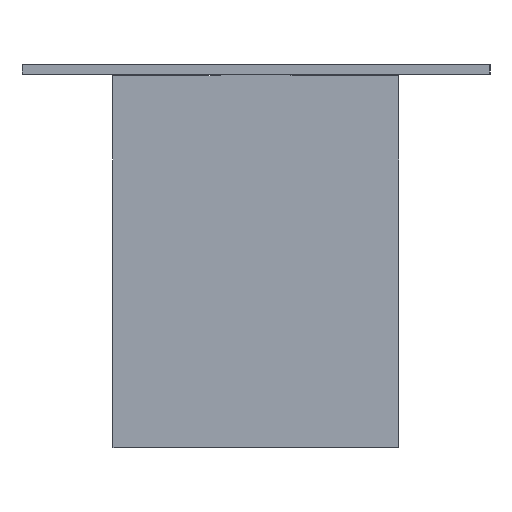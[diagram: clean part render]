
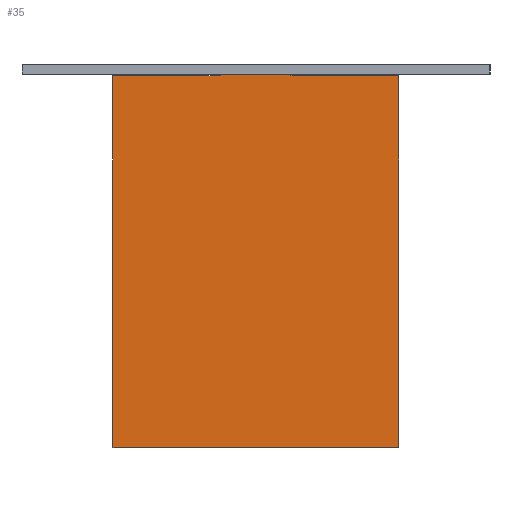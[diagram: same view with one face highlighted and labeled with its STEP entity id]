
A CAD part, left-side view. The second image highlights one B-rep face of the part: STEP entity #35.
In plain terms, the highlighted planar face has unit normal (-1, 0, 0).
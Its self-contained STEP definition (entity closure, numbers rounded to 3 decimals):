
#35=ADVANCED_FACE('',(#77),#619,.T.);
#77=FACE_OUTER_BOUND('',#119,.T.);
#119=EDGE_LOOP('',(#165,#166,#167,#168,#169,#170,#171));
#165=ORIENTED_EDGE('',*,*,#360,.F.);
#166=ORIENTED_EDGE('',*,*,#361,.F.);
#167=ORIENTED_EDGE('',*,*,#362,.F.);
#168=ORIENTED_EDGE('',*,*,#363,.F.);
#169=ORIENTED_EDGE('',*,*,#364,.F.);
#170=ORIENTED_EDGE('',*,*,#365,.F.);
#171=ORIENTED_EDGE('',*,*,#357,.F.);
#357=EDGE_CURVE('',#549,#556,#465,.T.);
#360=EDGE_CURVE('',#551,#549,#453,.T.);
#361=EDGE_CURVE('',#552,#551,#468,.T.);
#362=EDGE_CURVE('',#553,#552,#454,.T.);
#363=EDGE_CURVE('',#554,#553,#469,.T.);
#364=EDGE_CURVE('',#555,#554,#470,.T.);
#365=EDGE_CURVE('',#556,#555,#471,.T.);
#453=(
BOUNDED_CURVE()
B_SPLINE_CURVE(2,(#784,#785,#786),.UNSPECIFIED.,.F.,.F.)
B_SPLINE_CURVE_WITH_KNOTS((3,3),(2571.701,2607.964),
 .UNSPECIFIED.)
CURVE()
GEOMETRIC_REPRESENTATION_ITEM()
RATIONAL_B_SPLINE_CURVE((1.,0.748,1.))
REPRESENTATION_ITEM('')
);
#454=(
BOUNDED_CURVE()
B_SPLINE_CURVE(2,(#789,#790,#791,#792,#793),.UNSPECIFIED.,.F.,.F.)
B_SPLINE_CURVE_WITH_KNOTS((3,2,3),(2235.077,2435.077,2471.34),
 .UNSPECIFIED.)
CURVE()
GEOMETRIC_REPRESENTATION_ITEM()
RATIONAL_B_SPLINE_CURVE((1.,1.,1.,0.748,1.))
REPRESENTATION_ITEM('')
);
#465=B_SPLINE_CURVE_WITH_KNOTS('',1,(#778,#779),.UNSPECIFIED.,.F.,.F.,(2,
2),(55.077,255.077),.UNSPECIFIED.);
#468=B_SPLINE_CURVE_WITH_KNOTS('',1,(#787,#788),.UNSPECIFIED.,.F.,.F.,(2,
2),(2471.34,2571.701),.UNSPECIFIED.);
#469=B_SPLINE_CURVE_WITH_KNOTS('',1,(#794,#795),.UNSPECIFIED.,.F.,.F.,(2,
2),(1520.077,2235.077),.UNSPECIFIED.);
#470=B_SPLINE_CURVE_WITH_KNOTS('',1,(#796,#797),.UNSPECIFIED.,.F.,.F.,(2,
2),(970.077,1520.077),.UNSPECIFIED.);
#471=B_SPLINE_CURVE_WITH_KNOTS('',1,(#798,#799),.UNSPECIFIED.,.F.,.F.,(2,
2),(255.077,970.077),.UNSPECIFIED.);
#549=VERTEX_POINT('',#764);
#551=VERTEX_POINT('',#766);
#552=VERTEX_POINT('',#767);
#553=VERTEX_POINT('',#768);
#554=VERTEX_POINT('',#769);
#555=VERTEX_POINT('',#770);
#556=VERTEX_POINT('',#771);
#619=PLANE('',#671);
#671=AXIS2_PLACEMENT_3D('',#741,#706,$);
#706=DIRECTION('',(-1.,0.,0.));
#741=CARTESIAN_POINT('',(153.,325.,0.));
#764=CARTESIAN_POINT('',(153.,525.,715.));
#766=CARTESIAN_POINT('',(153.,549.819,737.));
#767=CARTESIAN_POINT('',(153.,650.181,737.));
#768=CARTESIAN_POINT('',(153.,875.,715.));
#769=CARTESIAN_POINT('',(153.,875.,0.));
#770=CARTESIAN_POINT('',(153.,325.,0.));
#771=CARTESIAN_POINT('',(153.,325.,715.));
#778=CARTESIAN_POINT('',(153.,525.,715.));
#779=CARTESIAN_POINT('',(153.,325.,715.));
#784=CARTESIAN_POINT('',(153.,549.819,737.));
#785=CARTESIAN_POINT('',(153.,547.16,715.));
#786=CARTESIAN_POINT('',(153.,525.,715.));
#787=CARTESIAN_POINT('',(153.,650.181,737.));
#788=CARTESIAN_POINT('',(153.,549.819,737.));
#789=CARTESIAN_POINT('',(153.,875.,715.));
#790=CARTESIAN_POINT('',(153.,775.,715.));
#791=CARTESIAN_POINT('',(153.,675.,715.));
#792=CARTESIAN_POINT('',(153.,652.84,715.));
#793=CARTESIAN_POINT('',(153.,650.181,737.));
#794=CARTESIAN_POINT('',(153.,875.,0.));
#795=CARTESIAN_POINT('',(153.,875.,715.));
#796=CARTESIAN_POINT('',(153.,325.,0.));
#797=CARTESIAN_POINT('',(153.,875.,0.));
#798=CARTESIAN_POINT('',(153.,325.,715.));
#799=CARTESIAN_POINT('',(153.,325.,0.));
